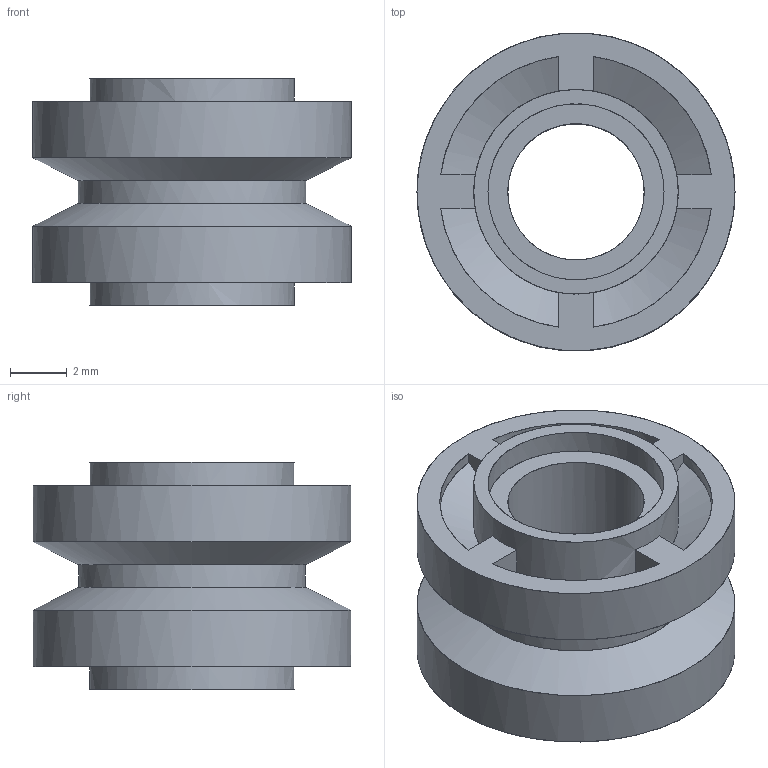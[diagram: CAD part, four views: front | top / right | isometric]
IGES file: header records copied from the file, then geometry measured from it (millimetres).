
Start section: C
Global section: file name: ClGray_4211758_AVV.iges; native system: By Siemens PLM Incorporated; preprocessor: XPlus GENERIC/IGES 26.1.183; author: Author; organization: Title; date: 20250721.235249; units: millimetre
Bounding box: 11.2 x 11.18 x 8 mm (x, y, z)
Surface area: 669.8 mm2 (no closed solid volume)
Topology: 0 solids, 0 shells, 48 faces, 272 edges, 272 vertices
Faces by surface type: bspline 48
